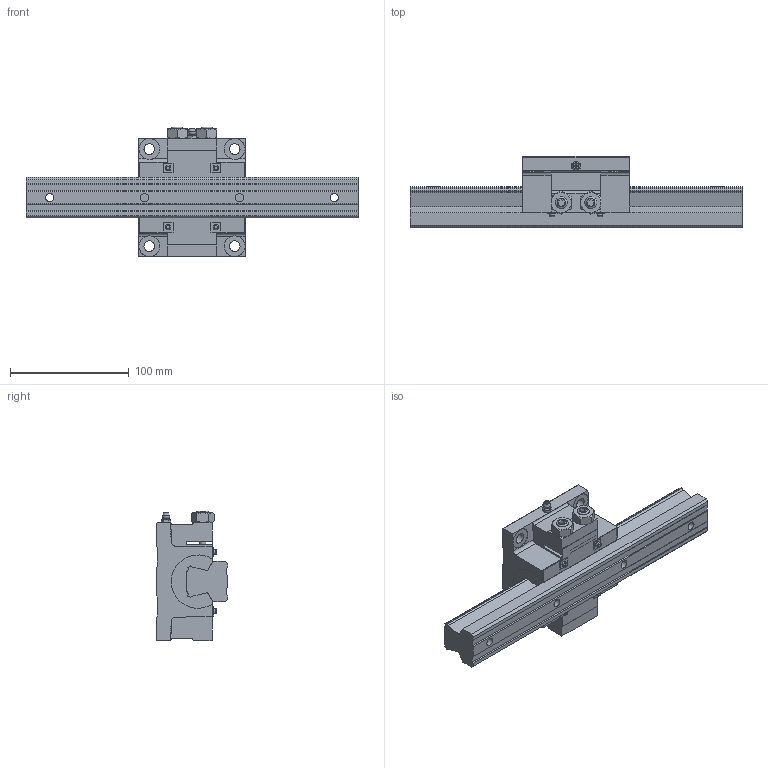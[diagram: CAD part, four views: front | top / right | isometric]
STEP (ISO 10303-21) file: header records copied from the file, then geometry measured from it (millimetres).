
FILE_DESCRIPTION(/* description */ ('STEP AP203'),/* implementation_level */ '2;1');
FILE_NAME(/* name */ 'NSR30TBC1-280L_G20_0_A-M6F_95_0_0_0',/* time_stamp */ '2024-05-21T12:12:27+02:00',/* author */ ('License CC BY-ND 4.0'),/* organization */ ('CADENAS'),/* preprocessor_version */ 'ST-DEVELOPER v19.3',/* originating_system */ 'PARTsolutions',/* authorisation */ ' ');
FILE_SCHEMA (('CONFIG_CONTROL_DESIGN'));
Length unit declared in the file: millimetre
Products named in the file (3): NSR30TBC1-280L_G20_0_A-M6F_95_0_0_0; NSR30TBC28020 Track; NSR30TBC
Assembly tree (2 placements, depth 2):
  NSR30TBC1-280L_G20_0_A-M6F_95_0_0_0
    NSR30TBC28020 Track
    NSR30TBC
Bounding box: 280 x 60 x 109.5 mm (x, y, z)
Volume: 555562.9 mm3; surface area: 86279.3 mm2
Topology: 2 solids, 2 shells, 254 faces, 662 edges, 429 vertices
Faces by surface type: plane 161, cylinder 52, cone 32, torus 7, sphere 2
Full cylindrical faces by diameter (mm): 4.5 x4, 5.5 x2, 7 x4, 9 x4, 11 x4, 17.6 x4
Entity records: 7633 total; most frequent: CARTESIAN_POINT 1533, ORIENTED_EDGE 1226, DIRECTION 1206, EDGE_CURVE 613, VERTEX_POINT 413, AXIS2_PLACEMENT_3D 412, LINE 382, VECTOR 382
